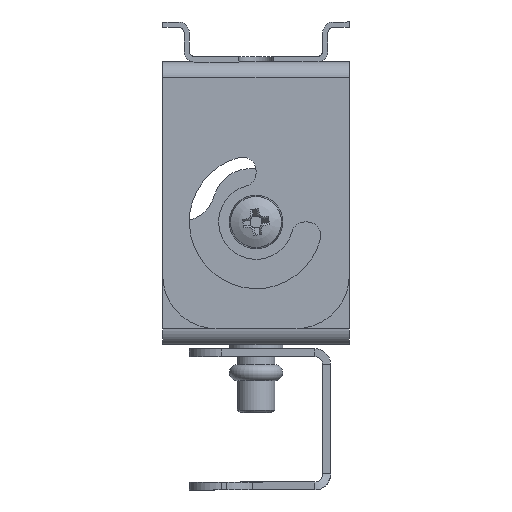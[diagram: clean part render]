
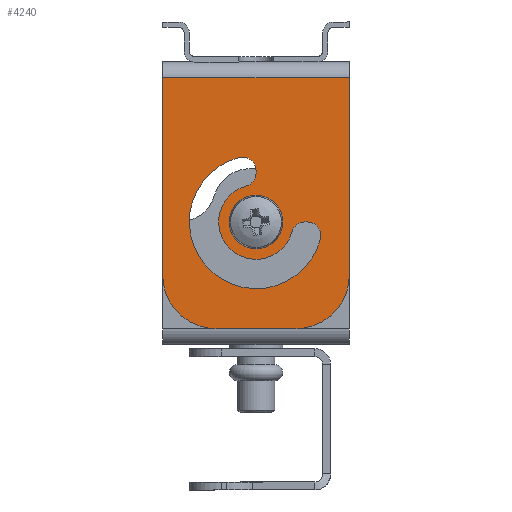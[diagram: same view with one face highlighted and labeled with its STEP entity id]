
A CAD part, left-side view. The second image highlights one B-rep face of the part: STEP entity #4240.
In plain terms, the highlighted planar face has unit normal (-1, 0, 0).
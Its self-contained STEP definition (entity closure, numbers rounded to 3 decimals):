
#198=FACE_BOUND('',#819,.T.);
#199=FACE_BOUND('',#820,.T.);
#314=PLANE('',#4898);
#546=FACE_OUTER_BOUND('',#818,.T.);
#818=EDGE_LOOP('',(#3880,#3881,#3882,#3883,#3884,#3885));
#819=EDGE_LOOP('',(#3886));
#820=EDGE_LOOP('',(#3887,#3888,#3889,#3890,#3891,#3892,#3893,#3894));
#1112=LINE('',#7464,#1443);
#1117=LINE('',#7485,#1448);
#1123=LINE('',#7501,#1454);
#1129=LINE('',#7519,#1460);
#1150=LINE('',#7585,#1481);
#1152=LINE('',#7592,#1483);
#1443=VECTOR('',#6064,10.);
#1448=VECTOR('',#6089,10.);
#1454=VECTOR('',#6103,10.);
#1460=VECTOR('',#6121,10.);
#1481=VECTOR('',#6192,10.);
#1483=VECTOR('',#6200,10.);
#1702=CIRCLE('',#4838,2.5);
#1704=CIRCLE('',#4841,7.);
#1706=CIRCLE('',#4844,2.5);
#1708=CIRCLE('',#4848,2.5);
#1709=CIRCLE('',#4850,12.5);
#1712=CIRCLE('',#4854,2.5);
#1713=CIRCLE('',#4857,10.);
#1717=CIRCLE('',#4864,10.);
#1723=CIRCLE('',#4877,2.75);
#2069=VERTEX_POINT('',#7443);
#2070=VERTEX_POINT('',#7445);
#2072=VERTEX_POINT('',#7451);
#2075=VERTEX_POINT('',#7458);
#2076=VERTEX_POINT('',#7460);
#2079=VERTEX_POINT('',#7470);
#2080=VERTEX_POINT('',#7472);
#2082=VERTEX_POINT('',#7481);
#2083=VERTEX_POINT('',#7488);
#2084=VERTEX_POINT('',#7489);
#2088=VERTEX_POINT('',#7499);
#2093=VERTEX_POINT('',#7513);
#2094=VERTEX_POINT('',#7517);
#2108=VERTEX_POINT('',#7556);
#2114=VERTEX_POINT('',#7584);
#2635=EDGE_CURVE('',#2069,#2070,#1702,.T.);
#2639=EDGE_CURVE('',#2069,#2072,#1704,.T.);
#2642=EDGE_CURVE('',#2075,#2076,#1706,.T.);
#2644=EDGE_CURVE('',#2075,#2070,#1112,.T.);
#2648=EDGE_CURVE('',#2079,#2080,#1708,.T.);
#2650=EDGE_CURVE('',#2079,#2076,#1709,.T.);
#2654=EDGE_CURVE('',#2082,#2072,#1712,.T.);
#2655=EDGE_CURVE('',#2082,#2080,#1117,.T.);
#2657=EDGE_CURVE('',#2083,#2084,#1713,.T.);
#2663=EDGE_CURVE('',#2088,#2083,#1123,.T.);
#2669=EDGE_CURVE('',#2093,#2088,#1717,.T.);
#2672=EDGE_CURVE('',#2094,#2093,#1129,.T.);
#2691=EDGE_CURVE('',#2108,#2108,#1723,.T.);
#2704=EDGE_CURVE('',#2094,#2114,#1150,.T.);
#2708=EDGE_CURVE('',#2084,#2114,#1152,.T.);
#3880=ORIENTED_EDGE('',*,*,#2657,.F.);
#3881=ORIENTED_EDGE('',*,*,#2663,.F.);
#3882=ORIENTED_EDGE('',*,*,#2669,.F.);
#3883=ORIENTED_EDGE('',*,*,#2672,.F.);
#3884=ORIENTED_EDGE('',*,*,#2704,.T.);
#3885=ORIENTED_EDGE('',*,*,#2708,.F.);
#3886=ORIENTED_EDGE('',*,*,#2691,.T.);
#3887=ORIENTED_EDGE('',*,*,#2655,.T.);
#3888=ORIENTED_EDGE('',*,*,#2648,.F.);
#3889=ORIENTED_EDGE('',*,*,#2650,.T.);
#3890=ORIENTED_EDGE('',*,*,#2642,.F.);
#3891=ORIENTED_EDGE('',*,*,#2644,.T.);
#3892=ORIENTED_EDGE('',*,*,#2635,.F.);
#3893=ORIENTED_EDGE('',*,*,#2639,.T.);
#3894=ORIENTED_EDGE('',*,*,#2654,.F.);
#4240=ADVANCED_FACE('',(#546,#198,#199),#314,.F.);
#4838=AXIS2_PLACEMENT_3D('',#7446,#6044,#6045);
#4841=AXIS2_PLACEMENT_3D('',#7453,#6052,#6053);
#4844=AXIS2_PLACEMENT_3D('',#7461,#6059,#6060);
#4848=AXIS2_PLACEMENT_3D('',#7473,#6071,#6072);
#4850=AXIS2_PLACEMENT_3D('',#7476,#6076,#6077);
#4854=AXIS2_PLACEMENT_3D('',#7483,#6085,#6086);
#4857=AXIS2_PLACEMENT_3D('',#7490,#6093,#6094);
#4864=AXIS2_PLACEMENT_3D('',#7514,#6115,#6116);
#4877=AXIS2_PLACEMENT_3D('',#7558,#6157,#6158);
#4898=AXIS2_PLACEMENT_3D('',#7602,#6212,#6213);
#6044=DIRECTION('center_axis',(-1.,0.,0.));
#6045=DIRECTION('ref_axis',(0.,0.795,0.607));
#6052=DIRECTION('center_axis',(-1.,0.,0.));
#6053=DIRECTION('ref_axis',(0.,1.,0.));
#6059=DIRECTION('center_axis',(-1.,0.,0.));
#6060=DIRECTION('ref_axis',(0.,0.612,-0.791));
#6064=DIRECTION('',(0.,0.,1.));
#6071=DIRECTION('center_axis',(-1.,0.,0.));
#6072=DIRECTION('ref_axis',(0.,0.791,-0.612));
#6076=DIRECTION('center_axis',(1.,0.,0.));
#6077=DIRECTION('ref_axis',(0.,-1.,0.));
#6085=DIRECTION('center_axis',(-1.,0.,0.));
#6086=DIRECTION('ref_axis',(0.,-0.607,-0.795));
#6089=DIRECTION('',(0.,1.,0.));
#6093=DIRECTION('center_axis',(1.,0.,0.));
#6094=DIRECTION('ref_axis',(0.,-0.707,0.707));
#6103=DIRECTION('',(0.,-1.,0.));
#6115=DIRECTION('center_axis',(1.,0.,0.));
#6116=DIRECTION('ref_axis',(0.,0.707,0.707));
#6121=DIRECTION('',(0.,0.,1.));
#6157=DIRECTION('center_axis',(1.,0.,0.));
#6158=DIRECTION('ref_axis',(0.,0.,
1.));
#6192=DIRECTION('',(0.,-1.,0.));
#6200=DIRECTION('',(0.,0.,-1.));
#6212=DIRECTION('center_axis',(1.,0.,0.));
#6213=DIRECTION('ref_axis',(0.,0.,
-1.));
#7443=CARTESIAN_POINT('',(-52.5,-1.842,23.247));
#7445=CARTESIAN_POINT('',(-52.5,0.,20.835));
#7446=CARTESIAN_POINT('Origin',(-52.5,-2.5,20.835));
#7451=CARTESIAN_POINT('',(-52.5,6.753,31.842));
#7453=CARTESIAN_POINT('Origin',(-52.5,0.,30.));
#7458=CARTESIAN_POINT('',(-52.5,0.,20.318));
#7460=CARTESIAN_POINT('',(-52.5,-3.125,17.897));
#7461=CARTESIAN_POINT('Origin',(-52.5,-2.5,20.318));
#7464=CARTESIAN_POINT('',(-52.5,0.,23.902));
#7470=CARTESIAN_POINT('',(-52.5,12.103,33.125));
#7472=CARTESIAN_POINT('',(-52.5,9.682,30.));
#7473=CARTESIAN_POINT('Origin',(-52.5,9.682,32.5));
#7476=CARTESIAN_POINT('Origin',(-52.5,0.,30.));
#7481=CARTESIAN_POINT('',(-52.5,9.165,30.));
#7483=CARTESIAN_POINT('Origin',(-52.5,9.165,32.5));
#7485=CARTESIAN_POINT('',(-52.5,6.25,30.));
#7488=CARTESIAN_POINT('',(-52.5,-7.5,50.));
#7489=CARTESIAN_POINT('',(-52.5,-17.5,40.));
#7490=CARTESIAN_POINT('Origin',(-52.5,-7.5,40.));
#7499=CARTESIAN_POINT('',(-52.5,7.5,50.));
#7501=CARTESIAN_POINT('',(-52.5,17.5,50.));
#7513=CARTESIAN_POINT('',(-52.5,17.5,40.));
#7514=CARTESIAN_POINT('Origin',(-52.5,7.5,40.));
#7517=CARTESIAN_POINT('',(-52.5,17.5,3.));
#7519=CARTESIAN_POINT('',(-52.5,17.5,3.));
#7556=CARTESIAN_POINT('',(-52.5,0.,27.25));
#7558=CARTESIAN_POINT('Origin',(-52.5,0.,30.));
#7584=CARTESIAN_POINT('',(-52.5,-17.5,3.));
#7585=CARTESIAN_POINT('',(-52.5,0.,3.));
#7592=CARTESIAN_POINT('',(-52.5,-17.5,-0.393));
#7602=CARTESIAN_POINT('Origin',(-52.5,0.,24.804));
